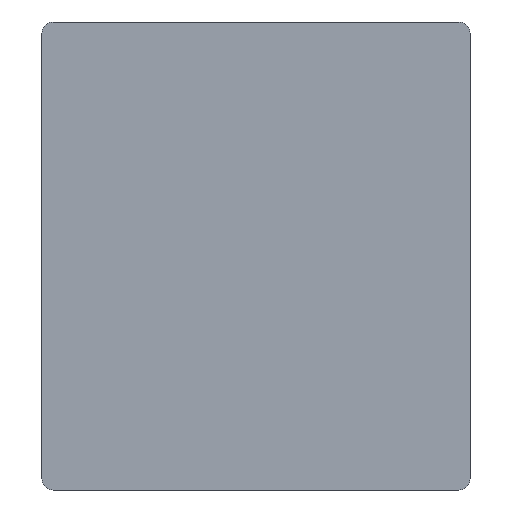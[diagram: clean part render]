
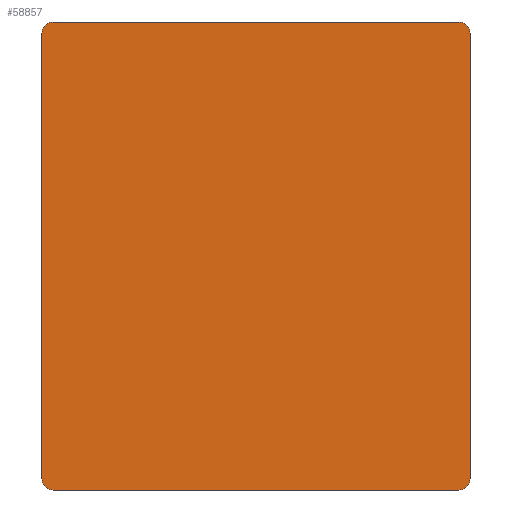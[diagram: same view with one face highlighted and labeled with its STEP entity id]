
A CAD part, front view. The second image highlights one B-rep face of the part: STEP entity #58857.
In plain terms, the highlighted planar face has unit normal (0, -1, 0) as drawn and (0, 0, 1) by its records, which use the part's own axes.
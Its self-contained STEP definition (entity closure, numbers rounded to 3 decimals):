
#3572=CIRCLE('',#64390,2.);
#3575=CIRCLE('',#64395,2.);
#3576=CIRCLE('',#64398,2.);
#3579=CIRCLE('',#64404,2.);
#6780=PLANE('',#64429);
#10133=FACE_OUTER_BOUND('',#13739,.T.);
#13739=EDGE_LOOP('',(#54982,#54983,#54984,#54985,#54986,#54987,#54988,#54989));
#19333=LINE('',#104806,#24973);
#19337=LINE('',#104818,#24977);
#19346=LINE('',#104841,#24986);
#19368=LINE('',#104897,#25008);
#24973=VECTOR('',#80166,10.);
#24977=VECTOR('',#80178,10.);
#24986=VECTOR('',#80199,10.);
#25008=VECTOR('',#80273,10.);
#30510=VERTEX_POINT('',#104793);
#30511=VERTEX_POINT('',#104794);
#30515=VERTEX_POINT('',#104804);
#30517=VERTEX_POINT('',#104810);
#30519=VERTEX_POINT('',#104816);
#30520=VERTEX_POINT('',#104820);
#30521=VERTEX_POINT('',#104821);
#30527=VERTEX_POINT('',#104840);
#38662=EDGE_CURVE('',#30510,#30511,#3572,.T.);
#38668=EDGE_CURVE('',#30510,#30515,#19333,.T.);
#38671=EDGE_CURVE('',#30517,#30515,#3575,.T.);
#38674=EDGE_CURVE('',#30517,#30519,#19337,.T.);
#38675=EDGE_CURVE('',#30520,#30521,#3576,.T.);
#38686=EDGE_CURVE('',#30527,#30521,#19346,.T.);
#38689=EDGE_CURVE('',#30527,#30519,#3579,.T.);
#38711=EDGE_CURVE('',#30520,#30511,#19368,.T.);
#54982=ORIENTED_EDGE('',*,*,#38662,.F.);
#54983=ORIENTED_EDGE('',*,*,#38668,.T.);
#54984=ORIENTED_EDGE('',*,*,#38671,.F.);
#54985=ORIENTED_EDGE('',*,*,#38674,.T.);
#54986=ORIENTED_EDGE('',*,*,#38689,.F.);
#54987=ORIENTED_EDGE('',*,*,#38686,.T.);
#54988=ORIENTED_EDGE('',*,*,#38675,.F.);
#54989=ORIENTED_EDGE('',*,*,#38711,.T.);
#58857=ADVANCED_FACE('',(#10133),#6780,.T.);
#64390=AXIS2_PLACEMENT_3D('',#104795,#80156,#80157);
#64395=AXIS2_PLACEMENT_3D('',#104812,#80172,#80173);
#64398=AXIS2_PLACEMENT_3D('',#104822,#80181,#80182);
#64404=AXIS2_PLACEMENT_3D('',#104845,#80204,#80205);
#64429=AXIS2_PLACEMENT_3D('',#104898,#80274,#80275);
#80156=DIRECTION('center_axis',(0.,0.,-1.));
#80157=DIRECTION('ref_axis',(0.707,0.707,0.));
#80166=DIRECTION('',(-1.,0.,0.));
#80172=DIRECTION('center_axis',(0.,0.,-1.));
#80173=DIRECTION('ref_axis',(-0.707,0.707,0.));
#80178=DIRECTION('',(0.,-1.,0.));
#80181=DIRECTION('center_axis',(0.,0.,-1.));
#80182=DIRECTION('ref_axis',(0.707,-0.707,0.));
#80199=DIRECTION('',(1.,0.,0.));
#80204=DIRECTION('center_axis',(0.,0.,-1.));
#80205=DIRECTION('ref_axis',(-0.707,-0.707,0.));
#80273=DIRECTION('',(0.,1.,0.));
#80274=DIRECTION('center_axis',(0.,0.,1.));
#80275=DIRECTION('ref_axis',(1.,0.,0.));
#104793=CARTESIAN_POINT('',(46.588,12.346,6.));
#104794=CARTESIAN_POINT('',(48.588,10.346,6.));
#104795=CARTESIAN_POINT('Origin',(46.588,10.346,6.));
#104804=CARTESIAN_POINT('',(-24.412,12.346,6.));
#104806=CARTESIAN_POINT('',(48.588,12.346,6.));
#104810=CARTESIAN_POINT('',(-26.412,10.346,6.));
#104812=CARTESIAN_POINT('Origin',(-24.412,10.346,6.));
#104816=CARTESIAN_POINT('',(-26.412,-67.654,6.));
#104818=CARTESIAN_POINT('',(-26.412,12.346,6.));
#104820=CARTESIAN_POINT('',(48.588,-67.654,6.));
#104821=CARTESIAN_POINT('',(46.588,-69.654,6.));
#104822=CARTESIAN_POINT('Origin',(46.588,-67.654,6.));
#104840=CARTESIAN_POINT('',(-24.412,-69.654,6.));
#104841=CARTESIAN_POINT('',(-26.412,-69.654,6.));
#104845=CARTESIAN_POINT('Origin',(-24.412,-67.654,6.));
#104897=CARTESIAN_POINT('',(48.588,-69.654,6.));
#104898=CARTESIAN_POINT('Origin',(11.088,-28.654,6.));
